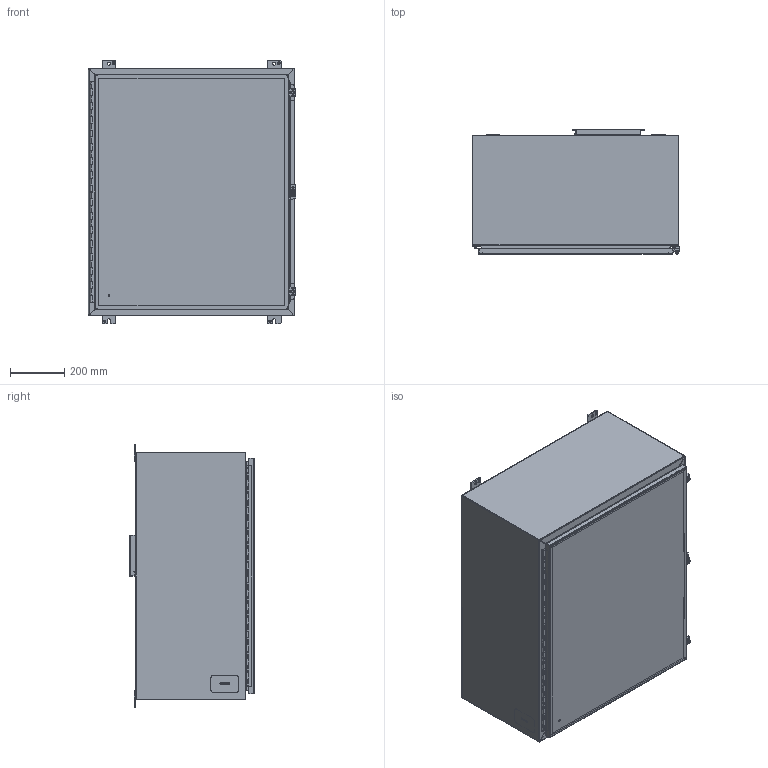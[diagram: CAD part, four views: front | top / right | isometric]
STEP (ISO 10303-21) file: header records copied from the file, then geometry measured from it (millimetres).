
FILE_DESCRIPTION(/* description */ ('Unknown'),/* implementation_level */ '2;1');
FILE_NAME(/* name */ '1418M16LP',/* time_stamp */ '2026-02-20T16:34:46-05:00',/* author */ ('Unknown'),/* organization */ ('Unknown'),/* preprocessor_version */ 'ST-DEVELOPER v18.104',/* originating_system */ 'Solid Edge',/* authorisation */ 'Unknown');
FILE_SCHEMA (('AUTOMOTIVE_DESIGN {1 0 10303 214 3 1 1}'));
Length unit declared in the file: millimetre
Products named in the file (32): 1418M16LP; HNG10620-32B; STD26094; STD21878; COM42780; KIT90256; LAB30005; NTS165305; NTS16535; COM40153-1; COM71780-21; COM40153-2; HNG10620-32C; COM70219_oa_0; PNT11078; COM48465; FET07710; KIT90519; WAF25059; NTS166105; AKT90223; SPR20265; SCC19011; WAF25035; COM42667; BUL10020; QLB30109; PKT99; COM48518; HNG10620-32P; QLB20254
Assembly tree (44 placements, depth 3):
  1418M16LP
    HNG10620-32B
    STD26094  x6
    STD21878
    COM42780  x2
    KIT90256
      LAB30005
      NTS165305
      NTS16535
    COM40153-1
    COM71780-21
      COM40153-2
      COM71780-21
      STD21878
      HNG10620-32C
      COM70219_oa_0
      PNT11078
    COM48465
    FET07710  x4
    KIT90519
      WAF25059
      NTS166105
    AKT90223  x2
      SPR20265
      SCC19011
      WAF25035
      COM42667
    BUL10020
    QLB30109
    PKT99
    COM48518  x2
    HNG10620-32P
    PNT11078
    QLB20254
Bounding box: 765.17 x 460.38 x 971.55 mm (x, y, z)
Volume: 5824155.1 mm3; surface area: 6318007.4 mm2
Topology: 39 solids, 40 shells, 1354 faces, 3489 edges, 2266 vertices
Faces by surface type: plane 886, cylinder 336, bspline 76, cone 28, torus 26, sphere 2
Full cylindrical faces by diameter (mm): 3.175 x1, 4.763 x1, 4.976 x1, 5.41 x2, 6.198 x2, 6.35 x3, 6.731 x2, 7.137 x2, 7.805 x1, 7.938 x4, 8.382 x6, 9.525 x6, 9.906 x2, 11.113 x4, 11.303 x1, 12.7 x2, 16.51 x6, 25.4 x1, 88.9 x1
Entity records: 34384 total; most frequent: CARTESIAN_POINT 9936, ORIENTED_EDGE 4986, DIRECTION 4540, EDGE_CURVE 2493, VERTEX_POINT 1637, LINE 1622, VECTOR 1622, AXIS2_PLACEMENT_3D 1459
